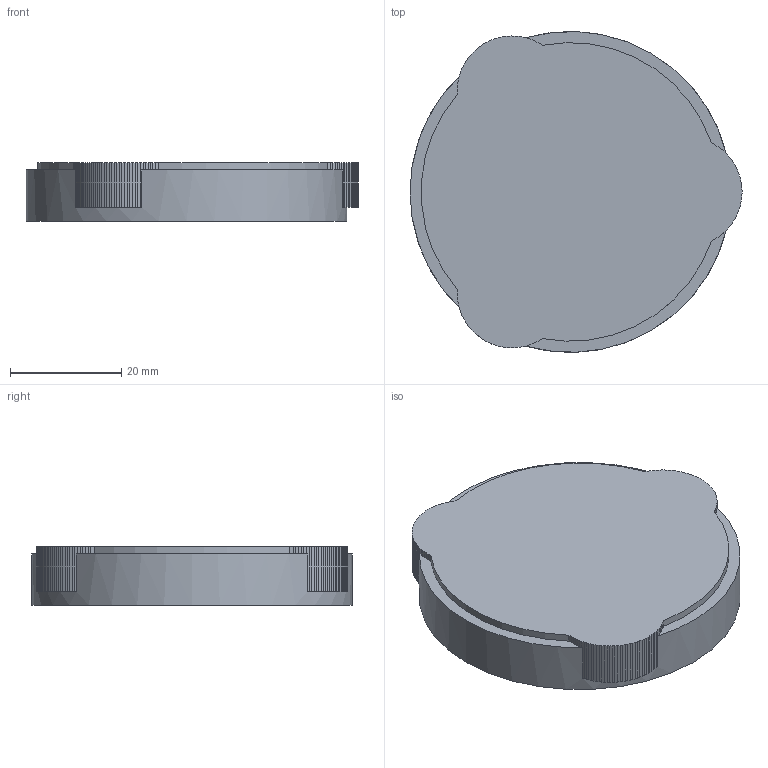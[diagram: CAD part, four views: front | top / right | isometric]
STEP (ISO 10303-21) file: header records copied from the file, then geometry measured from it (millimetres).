
FILE_DESCRIPTION(('Open CASCADE Model'),'2;1');
FILE_NAME('Open CASCADE Shape Model','2026-11-03T18:39:03',('Author'),( 'Open CASCADE'),'Open CASCADE STEP processor 7.9','Open CASCADE 7.9' ,'Unknown');
FILE_SCHEMA(('AUTOMOTIVE_DESIGN { 1 0 10303 214 1 1 1 1 }'));
Length unit declared in the file: millimetre
Products named in the file (1): Open CASCADE STEP translator 7.9 4
Bounding box: 59.6 x 57.6 x 10.5 mm (x, y, z)
Volume: 8360 mm3; surface area: 8800.4 mm2
Topology: 1 solids, 1 shells, 155 faces, 447 edges, 298 vertices
Faces by surface type: plane 147, cylinder 8
Full cylindrical faces by diameter (mm): 5.2 x1, 7 x1, 50 x1, 51.95 x1, 57.6 x1
Entity records: 10731 total; most frequent: CARTESIAN_POINT 1933, DIRECTION 1562, LINE 1189, VECTOR 1189, ORIENTED_EDGE 894, PCURVE 894, DEFINITIONAL_REPRESENTATION 894, EDGE_CURVE 447
